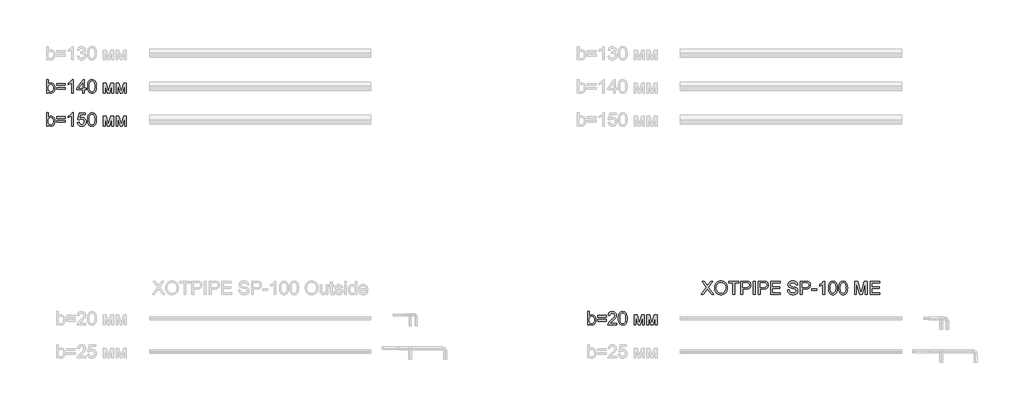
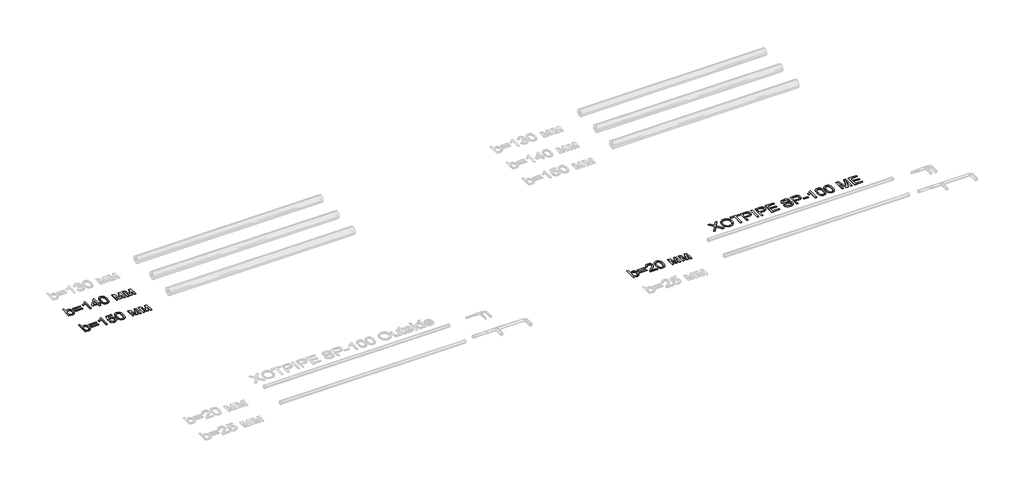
# One storey, part 56 of 86: 4 proxies.
"""IFC4 building model written with IfcOpenShell, lengths in millimetres."""

from ifc_helpers import new_model, si_unit, origin, origin_with_axes, place, context, project, spatial, polyline, outline, extrude, element, save

model = new_model("IFC4")

# Units and contexts
model_context = context("Model", 3, world=origin())
ifc_project = project(units=[si_unit("LENGTHUNIT", "METRE", prefix="MILLI")], contexts=[model_context])

# Site, building, storey
site = spatial("IfcSite", under=ifc_project)
building = spatial("IfcBuilding", under=site)
storey = spatial("IfcBuildingStorey", under=building, Name="Уровень 1", Elevation=0.0)

# Proxies
placement = place(None, origin())
element("IfcBuildingElementProxy", 1, Name="Текст модели 1", ObjectType="Текст модели 1", at=placement, inside=storey, context=model_context, shape_type="SweptSolid", body=[
    extrude(outline(polyline([(22698.159624, 39669.2937088), (22622.8173914, 39669.2937088), (22622.8173914, 40272.0315697), (22698.159624, 40272.0315697), (22698.159624, 40048.5064694), (22722.9364764, 40080.3742473), (22750.9139022, 40103.1369457), (22782.0919012, 40116.7945648), (22816.4704737, 40121.3471045), (22855.2820242, 40117.2452202), (22891.9598591, 40104.9395675), (22924.4070511, 40085.2026984), (22950.5266727, 40058.8071653), (22970.9993058, 40026.0104854), (22986.5055319, 39987.0701762), (22996.2727988, 39943.6049185), (22999.5285545, 39897.233393), (22996.1578357, 39843.7249568), (22986.0456794, 39796.6544555), (22969.1920855, 39756.0218892), (22945.597054, 39721.8272577), (22917.2747389, 39694.7235517), (22886.2392941, 39675.3637617), (22852.4907195, 39663.7478877), (22816.0290153, 39659.8759297), (22780.5192057, 39664.8699278), (22749.037704, 39679.8519221), (22721.5845101, 39704.8219125), (22698.159624, 39739.7798991), (22698.159624, 39669.2937088)]), holes=[polyline([(22698.159624, 39893.7017259), (22703.309972, 39830.8674811), (22709.7479069, 39807.065516), (22718.7610158, 39788.3403224), (22737.0171598, 39765.0993774), (22758.2347539, 39748.4987024), (22782.413798, 39738.5382973), (22809.5542922, 39735.2181623), (22832.0870644, 39737.6645776), (22853.037944, 39745.0038234), (22872.4069311, 39757.2358997), (22890.1940255, 39774.3608066), (22905.0656552, 39796.3325588), (22915.6882478, 39823.105171), (22922.0618034, 39854.6786432), (22924.1863219, 39891.0529755), (22922.1491753, 39928.1170865), (22916.0377357, 39959.9940614), (22905.8520029, 39986.6839001), (22891.5919771, 40008.1866028), (22874.4440776, 40024.7320955), (22855.5947239, 40036.5503046), (22835.0439159, 40043.64123), (22812.7916537, 40046.0048719), (22790.2588815, 40043.5584566), (22769.3080019, 40036.2192108), (22749.9390149, 40023.9871344), (22732.1519204, 40006.8622276), (22717.2802907, 39985.1112046), (22706.6576981, 39959.00078), (22700.2841426, 39928.5309538), (22698.159624, 39893.7017259)])]), origin_with_axes(), (0.0, 0.0, 1.0), 20.0),
    extrude(outline(polyline([(23470.4175083, 40017.7515346), (23074.8707871, 40017.7515346), (23074.8707871, 40093.0937672), (23470.4175083, 40093.0937672), (23470.4175083, 40017.7515346)])), origin_with_axes(), (0.0, 0.0, 1.0), 20.0),
    extrude(outline(polyline([(23470.4175083, 39838.8137322), (23074.8707871, 39838.8137322), (23074.8707871, 39914.1559648), (23470.4175083, 39914.1559648), (23470.4175083, 39838.8137322)])), origin_with_axes(), (0.0, 0.0, 1.0), 20.0),
    extrude(outline(polyline([(23837.7108923, 39669.2937088), (23762.3686597, 39669.2937088), (23762.3686597, 40139.0054402), (23730.9147491, 40113.5664003), (23690.9995526, 40088.1641485), (23649.0977934, 40065.9624701), (23611.6841945, 40050.1251502), (23611.6841945, 40121.3471045), (23670.8580134, 40153.5367791), (23722.1223694, 40191.8332947), (23762.5342066, 40232.5578316), (23789.1504689, 40272.0315697), (23837.7108923, 40272.0315697), (23837.7108923, 39669.2937088)])), origin_with_axes(), (0.0, 0.0, 1.0), 20.0),
    extrude(outline(polyline([(24261.5109507, 39669.2937088), (24261.5109507, 39810.5603949), (23988.3953575, 39810.5603949), (23988.3953575, 39885.9026276), (24280.3465089, 40262.6137906), (24336.8531834, 40262.6137906), (24336.8531834, 39885.9026276), (24412.195416, 39885.9026276), (24412.195416, 39810.5603949), (24336.8531834, 39810.5603949), (24336.8531834, 39669.2937088), (24261.5109507, 39669.2937088)]), holes=[polyline([(24261.5109507, 39885.9026276), (24261.5109507, 40118.6983541), (24081.1016203, 39885.9026276), (24261.5109507, 39885.9026276)])]), origin_with_axes(), (0.0, 0.0, 1.0), 20.0),
    extrude(outline(polyline([(24478.1198695, 39965.8065969), (24483.6564935, 40062.2836501), (24490.5772736, 40103.1967265), (24500.2663656, 40139.2261694), (24512.682383, 40170.6662845), (24527.7839389, 40197.8113772), (24545.5710333, 40220.6614476), (24566.0436664, 40239.2164957), (24589.2708158, 40253.5730906), (24615.3214596, 40263.8278012), (24644.1955977, 40269.9806276), (24675.8932301, 40272.0315697), (24722.3199379, 40267.1755274), (24763.8906034, 40252.6074004), (24798.6554519, 40228.8974058), (24824.664709, 40196.6157607), (24844.3096075, 40156.0383766), (24859.9813805, 40107.4411651), (24870.2452882, 40045.7289604), (24873.6665907, 39965.8065969), (24868.185149, 39869.8813667), (24861.3333468, 39829.106246), (24851.7408238, 39793.1227884), (24839.4213755, 39761.6688778), (24824.3887975, 39734.4823983), (24806.6430897, 39711.56335), (24786.1842523, 39692.9117329), (24762.9295116, 39678.458569), (24736.7960944, 39668.1348805), (24707.7840006, 39661.9406674), (24675.8932301, 39659.8759297), (24634.3961411, 39663.4627792), (24597.6079415, 39674.2233275), (24565.5286316, 39692.1575748), (24538.1582111, 39717.265521), (24511.8914367, 39762.6529621), (24493.1294549, 39819.2056218), (24481.8722659, 39886.9235001), (24478.1198695, 39965.8065969)]), holes=[polyline([(24553.4621021, 39965.9537497), (24555.6693941, 39900.456959), (24562.29127, 39847.440565), (24573.3277299, 39806.9045676), (24588.7787737, 39778.848967), (24607.467179, 39759.7604899), (24628.2157235, 39746.1258635), (24651.0244072, 39737.9450876), (24675.8932301, 39735.2181623), (24700.762053, 39737.9542847), (24723.5707367, 39746.1626517), (24744.3192812, 39759.8432634), (24763.0076866, 39778.9961198), (24778.4587304, 39807.0977057), (24789.4951902, 39847.624506), (24796.1170661, 39900.5765206), (24798.3243581, 39965.9537497), (24796.1906425, 40029.7168965), (24789.7894958, 40081.79979), (24779.120918, 40122.2024301), (24764.184909, 40150.9248169), (24745.8092033, 40170.9467945), (24724.8215355, 40185.248207), (24701.2219055, 40193.8290546), (24675.0103133, 40196.6893371), (24650.2702492, 40194.1693454), (24627.8478415, 40186.6093704), (24607.7430905, 40174.0094121), (24589.955996, 40156.3694704), (24573.9899175, 40125.0995008), (24562.5855756, 40082.9402242), (24555.7429705, 40029.8916405), (24553.4621021, 39965.9537497)])]), origin_with_axes(), (0.0, 0.0, 1.0), 20.0),
    extrude(outline(polyline([(25193.8710793, 40111.9293254), (25323.5126944, 40111.9293254), (25423.4294443, 39757.5853876), (25531.1452925, 40111.9293254), (25655.3422541, 40111.9293254), (25655.3422541, 39669.2937088), (25580.0000215, 39669.2937088), (25580.0000215, 40025.6977857), (25471.6955621, 39669.2937088), (25372.8088818, 39669.2937088), (25269.2133119, 40042.7675103), (25269.2133119, 39669.2937088), (25193.8710793, 39669.2937088), (25193.8710793, 40111.9293254)])), origin_with_axes(), (0.0, 0.0, 1.0), 20.0),
    extrude(outline(polyline([(25768.355603, 40111.9293254), (25897.9972181, 40111.9293254), (25997.913968, 39757.5853876), (26105.6298162, 40111.9293254), (26229.8267777, 40111.9293254), (26229.8267777, 39669.2937088), (26154.4845451, 39669.2937088), (26154.4845451, 40025.6977857), (26046.1800857, 39669.2937088), (25947.2934054, 39669.2937088), (25843.6978356, 40042.7675103), (25843.6978356, 39669.2937088), (25768.355603, 39669.2937088), (25768.355603, 40111.9293254)])), origin_with_axes(), (0.0, 0.0, 1.0), 20.0),
])
element("IfcBuildingElementProxy", 2, Name="Текст модели 1", ObjectType="Текст модели 1", at=placement, inside=storey, context=model_context, shape_type="SweptSolid", body=[
    extrude(outline(polyline([(22698.159624, 38169.2937088), (22622.8173914, 38169.2937088), (22622.8173914, 38772.0315697), (22698.159624, 38772.0315697), (22698.159624, 38548.5064694), (22722.9364764, 38580.3742473), (22750.9139022, 38603.1369457), (22782.0919012, 38616.7945648), (22816.4704737, 38621.3471045), (22855.2820242, 38617.2452202), (22891.9598591, 38604.9395675), (22924.4070511, 38585.2026984), (22950.5266727, 38558.8071653), (22970.9993058, 38526.0104854), (22986.5055319, 38487.0701762), (22996.2727988, 38443.6049185), (22999.5285545, 38397.233393), (22996.1578357, 38343.7249568), (22986.0456794, 38296.6544555), (22969.1920855, 38256.0218892), (22945.597054, 38221.8272577), (22917.2747389, 38194.7235517), (22886.2392941, 38175.3637617), (22852.4907195, 38163.7478877), (22816.0290153, 38159.8759297), (22780.5192057, 38164.8699278), (22749.037704, 38179.8519221), (22721.5845101, 38204.8219125), (22698.159624, 38239.7798991), (22698.159624, 38169.2937088)]), holes=[polyline([(22698.159624, 38393.7017259), (22703.309972, 38330.8674811), (22709.7479069, 38307.065516), (22718.7610158, 38288.3403224), (22737.0171598, 38265.0993774), (22758.2347539, 38248.4987024), (22782.413798, 38238.5382973), (22809.5542922, 38235.2181623), (22832.0870644, 38237.6645776), (22853.037944, 38245.0038234), (22872.4069311, 38257.2358997), (22890.1940255, 38274.3608066), (22905.0656552, 38296.3325588), (22915.6882478, 38323.105171), (22922.0618034, 38354.6786432), (22924.1863219, 38391.0529755), (22922.1491753, 38428.1170865), (22916.0377357, 38459.9940614), (22905.8520029, 38486.6839001), (22891.5919771, 38508.1866028), (22874.4440776, 38524.7320955), (22855.5947239, 38536.5503046), (22835.0439159, 38543.64123), (22812.7916537, 38546.0048719), (22790.2588815, 38543.5584566), (22769.3080019, 38536.2192108), (22749.9390149, 38523.9871344), (22732.1519204, 38506.8622276), (22717.2802907, 38485.1112046), (22706.6576981, 38459.00078), (22700.2841426, 38428.5309538), (22698.159624, 38393.7017259)])]), origin_with_axes(), (0.0, 0.0, 1.0), 20.0),
    extrude(outline(polyline([(23470.4175083, 38517.7515346), (23074.8707871, 38517.7515346), (23074.8707871, 38593.0937672), (23470.4175083, 38593.0937672), (23470.4175083, 38517.7515346)])), origin_with_axes(), (0.0, 0.0, 1.0), 20.0),
    extrude(outline(polyline([(23470.4175083, 38338.8137322), (23074.8707871, 38338.8137322), (23074.8707871, 38414.1559648), (23470.4175083, 38414.1559648), (23470.4175083, 38338.8137322)])), origin_with_axes(), (0.0, 0.0, 1.0), 20.0),
    extrude(outline(polyline([(23837.7108923, 38169.2937088), (23762.3686597, 38169.2937088), (23762.3686597, 38639.0054402), (23730.9147491, 38613.5664003), (23690.9995526, 38588.1641485), (23649.0977934, 38565.9624701), (23611.6841945, 38550.1251502), (23611.6841945, 38621.3471045), (23670.8580134, 38653.5367791), (23722.1223694, 38691.8332947), (23762.5342066, 38732.5578316), (23789.1504689, 38772.0315697), (23837.7108923, 38772.0315697), (23837.7108923, 38169.2937088)])), origin_with_axes(), (0.0, 0.0, 1.0), 20.0),
    extrude(outline(polyline([(24016.6486948, 38329.3959531), (24091.9909274, 38338.8137322), (24097.6195219, 38314.5933013), (24105.8232904, 38293.5826409), (24116.6022328, 38275.7817508), (24129.9563493, 38261.1906312), (24145.8580485, 38249.8276761), (24164.2797394, 38241.7112795), (24185.221422, 38236.8414416), (24208.6830962, 38235.2181623), (24237.3778919, 38237.4760381), (24262.6881731, 38244.2496653), (24284.61394, 38255.539044), (24303.1551926, 38271.3441743), (24317.8980636, 38290.8833067), (24328.4286857, 38313.3746922), (24334.7470589, 38338.8183307), (24336.8531834, 38367.2142222), (24334.8804162, 38394.0512138), (24328.9621146, 38417.9083611), (24319.0982786, 38438.7856644), (24305.2889082, 38456.6831234), (24287.4880181, 38471.0397183), (24265.6496232, 38481.2944289), (24239.7737234, 38487.4472553), (24209.8603186, 38489.4981974), (24173.3112424, 38486.2240476), (24143.7151359, 38476.4015984), (24120.0787177, 38461.3552248), (24101.4087064, 38442.409302), (24026.0664738, 38451.8270811), (24091.9909274, 38762.6137906), (24383.9420787, 38762.6137906), (24383.9420787, 38687.271558), (24152.9121858, 38687.271558), (24120.685723, 38521.2832018), (24147.2743942, 38540.3394891), (24174.5068589, 38553.951123), (24202.3831171, 38562.1181032), (24230.9031687, 38564.84043), (24267.5947992, 38561.4651127), (24301.2973885, 38551.3391608), (24332.0109366, 38534.4625743), (24359.7354435, 38510.8353531), (24382.6866814, 38481.9014342), (24399.0804228, 38449.1047543), (24408.9166677, 38412.4453135), (24412.195416, 38371.9231117), (24409.243163, 38332.8908321), (24400.3864039, 38296.5808791), (24385.6251389, 38262.993253), (24364.9593678, 38232.1279536), (24333.65261, 38200.5176931), (24297.1219279, 38177.9389357), (24255.3673214, 38164.3916812), (24208.3887906, 38159.8759297), (24169.5082623, 38162.777599), (24134.3893273, 38171.4826067), (24103.0319858, 38185.9909529), (24075.4362376, 38206.3026375), (24052.4758026, 38231.4059852), (24035.0244004, 38260.2893203), (24023.0820311, 38292.952643), (24016.6486948, 38329.3959531)])), origin_with_axes(), (0.0, 0.0, 1.0), 20.0),
    extrude(outline(polyline([(24478.1198695, 38465.8065969), (24483.6564935, 38562.2836501), (24490.5772736, 38603.1967265), (24500.2663656, 38639.2261694), (24512.682383, 38670.6662845), (24527.7839389, 38697.8113772), (24545.5710333, 38720.6614476), (24566.0436664, 38739.2164957), (24589.2708158, 38753.5730906), (24615.3214596, 38763.8278012), (24644.1955977, 38769.9806276), (24675.8932301, 38772.0315697), (24722.3199379, 38767.1755274), (24763.8906034, 38752.6074004), (24798.6554519, 38728.8974058), (24824.664709, 38696.6157607), (24844.3096075, 38656.0383766), (24859.9813805, 38607.4411651), (24870.2452882, 38545.7289604), (24873.6665907, 38465.8065969), (24868.185149, 38369.8813667), (24861.3333468, 38329.106246), (24851.7408238, 38293.1227884), (24839.4213755, 38261.6688778), (24824.3887975, 38234.4823983), (24806.6430897, 38211.56335), (24786.1842523, 38192.9117329), (24762.9295116, 38178.458569), (24736.7960944, 38168.1348805), (24707.7840006, 38161.9406674), (24675.8932301, 38159.8759297), (24634.3961411, 38163.4627792), (24597.6079415, 38174.2233275), (24565.5286316, 38192.1575748), (24538.1582111, 38217.265521), (24511.8914367, 38262.6529621), (24493.1294549, 38319.2056218), (24481.8722659, 38386.9235001), (24478.1198695, 38465.8065969)]), holes=[polyline([(24553.4621021, 38465.9537497), (24555.6693941, 38400.456959), (24562.29127, 38347.440565), (24573.3277299, 38306.9045676), (24588.7787737, 38278.848967), (24607.467179, 38259.7604899), (24628.2157235, 38246.1258635), (24651.0244072, 38237.9450876), (24675.8932301, 38235.2181623), (24700.762053, 38237.9542847), (24723.5707367, 38246.1626517), (24744.3192812, 38259.8432634), (24763.0076866, 38278.9961198), (24778.4587304, 38307.0977057), (24789.4951902, 38347.624506), (24796.1170661, 38400.5765206), (24798.3243581, 38465.9537497), (24796.1906425, 38529.7168965), (24789.7894958, 38581.79979), (24779.120918, 38622.2024301), (24764.184909, 38650.9248169), (24745.8092033, 38670.9467945), (24724.8215355, 38685.248207), (24701.2219055, 38693.8290546), (24675.0103133, 38696.6893371), (24650.2702492, 38694.1693454), (24627.8478415, 38686.6093704), (24607.7430905, 38674.0094121), (24589.955996, 38656.3694704), (24573.9899175, 38625.0995008), (24562.5855756, 38582.9402242), (24555.7429705, 38529.8916405), (24553.4621021, 38465.9537497)])]), origin_with_axes(), (0.0, 0.0, 1.0), 20.0),
    extrude(outline(polyline([(25193.8710793, 38611.9293254), (25323.5126944, 38611.9293254), (25423.4294443, 38257.5853876), (25531.1452925, 38611.9293254), (25655.3422541, 38611.9293254), (25655.3422541, 38169.2937088), (25580.0000215, 38169.2937088), (25580.0000215, 38525.6977857), (25471.6955621, 38169.2937088), (25372.8088818, 38169.2937088), (25269.2133119, 38542.7675103), (25269.2133119, 38169.2937088), (25193.8710793, 38169.2937088), (25193.8710793, 38611.9293254)])), origin_with_axes(), (0.0, 0.0, 1.0), 20.0),
    extrude(outline(polyline([(25768.355603, 38611.9293254), (25897.9972181, 38611.9293254), (25997.913968, 38257.5853876), (26105.6298162, 38611.9293254), (26229.8267777, 38611.9293254), (26229.8267777, 38169.2937088), (26154.4845451, 38169.2937088), (26154.4845451, 38525.6977857), (26046.1800857, 38169.2937088), (25947.2934054, 38169.2937088), (25843.6978356, 38542.7675103), (25843.6978356, 38169.2937088), (25768.355603, 38169.2937088), (25768.355603, 38611.9293254)])), origin_with_axes(), (0.0, 0.0, 1.0), 20.0),
])
element("IfcBuildingElementProxy", 3, Name="Текст модели 1", ObjectType="Текст модели 1", at=placement, inside=storey, context=model_context, shape_type="SweptSolid", body=[
    extrude(outline(polyline([(47159.6307988, 29169.2937088), (47084.2885662, 29169.2937088), (47084.2885662, 29772.0315697), (47159.6307988, 29772.0315697), (47159.6307988, 29548.5064694), (47184.4076512, 29580.3742473), (47212.3850769, 29603.1369457), (47243.563076, 29616.7945648), (47277.9416484, 29621.3471045), (47316.7531989, 29617.2452202), (47353.4310339, 29604.9395675), (47385.8782258, 29585.2026984), (47411.9978475, 29558.8071653), (47432.4704805, 29526.0104854), (47447.9767066, 29487.0701762), (47457.7439736, 29443.6049185), (47460.9997292, 29397.233393), (47457.6290105, 29343.7249568), (47447.5168541, 29296.6544555), (47430.6632602, 29256.0218892), (47407.0682288, 29221.8272577), (47378.7459136, 29194.7235517), (47347.7104688, 29175.3637617), (47313.9618943, 29163.7478877), (47277.50019, 29159.8759297), (47241.9903805, 29164.8699278), (47210.5088787, 29179.8519221), (47183.0556848, 29204.8219125), (47159.6307988, 29239.7798991), (47159.6307988, 29169.2937088)]), holes=[polyline([(47159.6307988, 29393.7017259), (47164.7811467, 29330.8674811), (47171.2190816, 29307.065516), (47180.2321905, 29288.3403224), (47198.4883345, 29265.0993774), (47219.7059286, 29248.4987024), (47243.8849727, 29238.5382973), (47271.0254669, 29235.2181623), (47293.5582391, 29237.6645776), (47314.5091188, 29245.0038234), (47333.8781058, 29257.2358997), (47351.6652003, 29274.3608066), (47366.5368299, 29296.3325588), (47377.1594225, 29323.105171), (47383.5329781, 29354.6786432), (47385.6574966, 29391.0529755), (47383.6203501, 29428.1170865), (47377.5089104, 29459.9940614), (47367.3231777, 29486.6839001), (47353.0631519, 29508.1866028), (47335.9152524, 29524.7320955), (47317.0658986, 29536.5503046), (47296.5150907, 29543.64123), (47274.2628285, 29546.0048719), (47251.7300563, 29543.5584566), (47230.7791767, 29536.2192108), (47211.4101896, 29523.9871344), (47193.6230951, 29506.8622276), (47178.7514655, 29485.1112046), (47168.1288729, 29459.00078), (47161.7553173, 29428.5309538), (47159.6307988, 29393.7017259)])]), origin_with_axes(), (0.0, 0.0, 1.0), 20.0),
    extrude(outline(polyline([(47931.8886831, 29517.7515346), (47536.3419619, 29517.7515346), (47536.3419619, 29593.0937672), (47931.8886831, 29593.0937672), (47931.8886831, 29517.7515346)])), origin_with_axes(), (0.0, 0.0, 1.0), 20.0),
    extrude(outline(polyline([(47931.8886831, 29338.8137322), (47536.3419619, 29338.8137322), (47536.3419619, 29414.1559648), (47931.8886831, 29414.1559648), (47931.8886831, 29338.8137322)])), origin_with_axes(), (0.0, 0.0, 1.0), 20.0),
    extrude(outline(polyline([(48402.7776369, 29244.6359414), (48402.7776369, 29169.2937088), (48007.2309157, 29169.2937088), (48008.8863847, 29195.8180007), (48015.3243196, 29221.2386465), (48033.9023603, 29261.8344247), (48061.0888398, 29301.2161923), (48100.4154251, 29342.4373698), (48155.4137833, 29388.5513779), (48236.7157043, 29460.7666136), (48285.4968568, 29514.0727147), (48299.724693, 29535.8513288), (48309.8874331, 29557.3356373), (48315.9850772, 29578.5256402), (48318.0176252, 29599.4213376), (48316.1000403, 29619.0800317), (48310.3472856, 29637.1476362), (48300.7593611, 29653.624151), (48287.3362668, 29668.5095763), (48270.8229638, 29680.8382216), (48251.964413, 29689.6443969), (48230.7606145, 29694.928102), (48207.2115683, 29696.6893371), (48182.4025262, 29694.9694888), (48160.2146434, 29689.8099438), (48140.6479198, 29681.2107021), (48123.7023554, 29669.1717638), (48109.9941525, 29654.0977991), (48100.1395136, 29636.3934781), (48094.1384385, 29616.0588008), (48091.9909274, 29593.0937672), (48016.6486948, 29602.5115463), (48023.1280164, 29641.4058703), (48034.9140358, 29675.3889696), (48052.006753, 29704.4608442), (48074.406168, 29728.6214943), (48101.597246, 29747.6134023), (48133.0649521, 29761.1790508), (48168.8092865, 29769.31844), (48208.830249, 29772.0315697), (48249.2098965, 29769.0149373), (48285.1473689, 29759.9650403), (48316.6426662, 29744.8818785), (48343.6957885, 29723.7654519), (48365.4238188, 29698.1792592), (48380.9438405, 29669.6867986), (48390.2558535, 29638.2880704), (48393.3598578, 29603.9830743), (48390.0121317, 29567.9490329), (48379.9689532, 29532.5403908), (48362.1450705, 29496.5247435), (48335.4552318, 29458.6696862), (48292.909679, 29413.4753831), (48227.5186544, 29355.4419984), (48140.8456563, 29282.9692453), (48106.85336, 29244.6359414), (48402.7776369, 29244.6359414)])), origin_with_axes(), (0.0, 0.0, 1.0), 20.0),
    extrude(outline(polyline([(48478.1198695, 29465.8065969), (48483.6564935, 29562.2836501), (48490.5772736, 29603.1967265), (48500.2663656, 29639.2261694), (48512.682383, 29670.6662845), (48527.7839389, 29697.8113772), (48545.5710333, 29720.6614476), (48566.0436664, 29739.2164957), (48589.2708158, 29753.5730906), (48615.3214596, 29763.8278012), (48644.1955977, 29769.9806276), (48675.8932301, 29772.0315697), (48722.3199379, 29767.1755274), (48763.8906034, 29752.6074004), (48798.6554519, 29728.8974058), (48824.664709, 29696.6157607), (48844.3096075, 29656.0383766), (48859.9813805, 29607.4411651), (48870.2452882, 29545.7289604), (48873.6665907, 29465.8065969), (48868.185149, 29369.8813667), (48861.3333468, 29329.106246), (48851.7408238, 29293.1227884), (48839.4213755, 29261.6688778), (48824.3887975, 29234.4823983), (48806.6430897, 29211.56335), (48786.1842523, 29192.9117329), (48762.9295116, 29178.458569), (48736.7960944, 29168.1348805), (48707.7840006, 29161.9406674), (48675.8932301, 29159.8759297), (48634.3961411, 29163.4627792), (48597.6079415, 29174.2233275), (48565.5286316, 29192.1575748), (48538.1582111, 29217.265521), (48511.8914367, 29262.6529621), (48493.1294549, 29319.2056218), (48481.8722659, 29386.9235001), (48478.1198695, 29465.8065969)]), holes=[polyline([(48553.4621021, 29465.9537497), (48555.6693941, 29400.456959), (48562.29127, 29347.440565), (48573.3277299, 29306.9045676), (48588.7787737, 29278.848967), (48607.467179, 29259.7604899), (48628.2157235, 29246.1258635), (48651.0244072, 29237.9450876), (48675.8932301, 29235.2181623), (48700.762053, 29237.9542847), (48723.5707367, 29246.1626517), (48744.3192812, 29259.8432634), (48763.0076866, 29278.9961198), (48778.4587304, 29307.0977057), (48789.4951902, 29347.624506), (48796.1170661, 29400.5765206), (48798.3243581, 29465.9537497), (48796.1906425, 29529.7168965), (48789.7894958, 29581.79979), (48779.120918, 29622.2024301), (48764.184909, 29650.9248169), (48745.8092033, 29670.9467945), (48724.8215355, 29685.248207), (48701.2219055, 29693.8290546), (48675.0103133, 29696.6893371), (48650.2702492, 29694.1693454), (48627.8478415, 29686.6093704), (48607.7430905, 29674.0094121), (48589.955996, 29656.3694704), (48573.9899175, 29625.0995008), (48562.5855756, 29582.9402242), (48555.7429705, 29529.8916405), (48553.4621021, 29465.9537497)])]), origin_with_axes(), (0.0, 0.0, 1.0), 20.0),
    extrude(outline(polyline([(49193.8710793, 29611.9293254), (49323.5126944, 29611.9293254), (49423.4294443, 29257.5853876), (49531.1452925, 29611.9293254), (49655.3422541, 29611.9293254), (49655.3422541, 29169.2937088), (49580.0000215, 29169.2937088), (49580.0000215, 29525.6977857), (49471.6955621, 29169.2937088), (49372.8088818, 29169.2937088), (49269.2133119, 29542.7675103), (49269.2133119, 29169.2937088), (49193.8710793, 29169.2937088), (49193.8710793, 29611.9293254)])), origin_with_axes(), (0.0, 0.0, 1.0), 20.0),
    extrude(outline(polyline([(49768.355603, 29611.9293254), (49897.9972181, 29611.9293254), (49997.913968, 29257.5853876), (50105.6298162, 29611.9293254), (50229.8267777, 29611.9293254), (50229.8267777, 29169.2937088), (50154.4845451, 29169.2937088), (50154.4845451, 29525.6977857), (50046.1800857, 29169.2937088), (49947.2934054, 29169.2937088), (49843.6978356, 29542.7675103), (49843.6978356, 29169.2937088), (49768.355603, 29169.2937088), (49768.355603, 29611.9293254)])), origin_with_axes(), (0.0, 0.0, 1.0), 20.0),
])
element("IfcBuildingElementProxy", 4, Name="Текст модели 1", ObjectType="Текст модели 1", at=placement, inside=storey, context=model_context, shape_type="SweptSolid", body=[
    extrude(outline(polyline([(52227.2706702, 30543.2937088), (52459.6249384, 30871.7387541), (52264.9417865, 31146.0315697), (52355.2936045, 31146.0315697), (52464.9224391, 30991.6682845), (52491.078849, 30952.5624284), (52501.8577914, 30931.4827901), (52545.1207141, 30992.6983541), (52653.5723262, 31146.0315697), (52745.2485194, 31146.0315697), (52550.5653676, 30870.8558373), (52782.9196357, 30543.2937088), (52692.5678177, 30543.2937088), (52537.7630741, 30761.6684611), (52505.5366114, 30806.9915229), (52470.072787, 30757.2538772), (52318.9468634, 30543.2937088), (52227.2706702, 30543.2937088)])), origin_with_axes(), (0.0, 0.0, 1.0), 20.0),
    extrude(outline(polyline([(52830.0085311, 30836.7163882), (52835.0301203, 30907.4141106), (52850.0948881, 30970.000035), (52875.2028342, 31024.4741614), (52891.5229992, 31048.6693004), (52910.3539589, 31070.8364899), (52953.4421375, 31107.8546156), (53002.3612459, 31134.2961341), (53057.1112838, 31150.1610451), (53117.6922513, 31155.4493488), (53158.2420443, 31152.9661453), (53196.7500921, 31145.5165349), (53233.2163949, 31133.1005176), (53267.6409526, 31115.7180933), (53299.058075, 31093.8934939), (53326.5020718, 31068.1509513), (53349.9729431, 31038.4904655), (53369.4706888, 31004.9120363), (53384.7929739, 30968.1790191), (53395.7374633, 30929.0547689), (53402.3041569, 30887.5392858), (53404.4930548, 30843.6325697), (53402.1891938, 30799.1464394), (53395.2776108, 30757.0699362), (53383.7583058, 30717.4030601), (53367.6312789, 30680.145811), (53347.2782075, 30646.2822733), (53323.0807693, 30616.7965314), (53295.0389642, 30591.6885853), (53263.1527922, 30570.9584348), (53228.6776508, 30554.7348388), (53192.8689371, 30543.146556), (53155.7266511, 30536.1935863), (53117.2507929, 30533.8759297), (53075.9928272, 30536.4373081), (53036.9789416, 30544.1214433), (53000.2091362, 30556.9283352), (52965.6834109, 30574.857984), (52934.3030767, 30597.2160122), (52906.9694445, 30623.3080427), (52883.6825142, 30653.1340755), (52864.4422859, 30686.6941105), (52849.3775182, 30722.64078), (52838.6169698, 30759.6267161), (52832.1606408, 30797.6519188), (52830.0085311, 30836.7163882)]), holes=[polyline([(52905.3507637, 30835.9806242), (52909.1169557, 30786.0314463), (52920.4155314, 30741.6924688), (52939.2464911, 30702.9636918), (52965.6098345, 30669.8451151), (52997.6569548, 30643.3208233), (53033.5392449, 30624.3749005), (53073.2567049, 30613.0073469), (53116.8093346, 30609.2181623), (53161.1069253, 30613.0441351), (53201.2934347, 30624.5220533), (53237.3688629, 30643.6519171), (53269.3332098, 30670.4337263), (53295.5034152, 30704.2512787), (53314.1964191, 30744.488372), (53325.4122214, 30791.145006), (53329.1508222, 30844.2211809), (53327.5505355, 30878.7009209), (53322.7496755, 30910.9181866), (53314.7482421, 30940.872978), (53303.5462353, 30968.5652952), (53289.2678154, 30993.6318547), (53272.0371424, 31015.7093729), (53251.8542165, 31034.7978499), (53228.7190375, 31050.8972857), (53203.3489754, 31063.6765866), (53176.4614001, 31072.8046586), (53148.0563115, 31078.2815018), (53118.1337097, 31080.1071162), (53076.0939947, 31076.5892446), (53037.0893062, 31066.0356298), (53001.1196441, 31048.446272), (52968.1850085, 31023.8211709), (52940.6950264, 30990.9739073), (52921.0593249, 30948.7180616), (52909.277904, 30897.0536339), (52905.3507637, 30835.9806242)])]), origin_with_axes(), (0.0, 0.0, 1.0), 20.0),
    extrude(outline(polyline([(53658.7730899, 30543.2937088), (53658.7730899, 31070.6893371), (53460.9997292, 31070.6893371), (53460.9997292, 31146.0315697), (53931.8886831, 31146.0315697), (53931.8886831, 31070.6893371), (53734.1153225, 31070.6893371), (53734.1153225, 30543.2937088), (53658.7730899, 30543.2937088)])), origin_with_axes(), (0.0, 0.0, 1.0), 20.0),
    extrude(outline(polyline([(54016.6486948, 30543.2937088), (54016.6486948, 31146.0315697), (54240.0266422, 31146.0315697), (54292.0451563, 31144.5968299), (54330.0841546, 31140.2926106), (54370.2384744, 31129.5688504), (54403.2926717, 31112.1128497), (54429.908934, 31087.1336623), (54450.7494491, 31053.8403417), (54464.2139301, 31014.5689387), (54468.7020904, 30971.655504), (54465.6716625, 30934.6557723), (54456.5803787, 30900.6174907), (54441.428239, 30869.5406592), (54420.2152435, 30841.4252777), (54391.092785, 30818.1199533), (54352.2122567, 30801.473293), (54303.5736584, 30791.4852968), (54245.1769902, 30788.1559648), (54091.9909274, 30788.1559648), (54091.9909274, 30543.2937088), (54016.6486948, 30543.2937088)]), holes=[polyline([(54091.9909274, 30863.4981974), (54249.5915741, 30863.4981974), (54285.8279506, 30865.2272428), (54316.3989444, 30870.4143789), (54341.3045555, 30879.0596058), (54360.5447838, 30891.1629234), (54374.9013787, 30906.4024351), (54385.1560893, 30924.456244), (54391.3089157, 30945.3243502), (54393.3598578, 30969.0067536), (54388.5222096, 31002.8518972), (54374.0092649, 31031.39954), (54351.6236455, 31052.8838485), (54323.1679731, 31065.5389892), (54294.1052955, 31069.4017501), (54247.8257405, 31070.6893371), (54091.9909274, 31070.6893371), (54091.9909274, 30863.4981974)])]), origin_with_axes(), (0.0, 0.0, 1.0), 20.0),
    extrude(outline(polyline([(54581.7154393, 30543.2937088), (54581.7154393, 31146.0315697), (54657.057672, 31146.0315697), (54657.057672, 30543.2937088), (54581.7154393, 30543.2937088)])), origin_with_axes(), (0.0, 0.0, 1.0), 20.0),
    extrude(outline(polyline([(54807.7421372, 30543.2937088), (54807.7421372, 31146.0315697), (55031.1200847, 31146.0315697), (55083.1385988, 31144.5968299), (55121.1775971, 31140.2926106), (55161.3319169, 31129.5688504), (55194.3861141, 31112.1128497), (55221.0023765, 31087.1336623), (55241.8428915, 31053.8403417), (55255.3073725, 31014.5689387), (55259.7955329, 30971.655504), (55256.7651049, 30934.6557723), (55247.6738211, 30900.6174907), (55232.5216814, 30869.5406592), (55211.3086859, 30841.4252777), (55182.1862275, 30818.1199533), (55143.3056991, 30801.473293), (55094.6671008, 30791.4852968), (55036.2704326, 30788.1559648), (54883.0843698, 30788.1559648), (54883.0843698, 30543.2937088), (54807.7421372, 30543.2937088)]), holes=[polyline([(54883.0843698, 30863.4981974), (55040.6850165, 30863.4981974), (55076.9213931, 30865.2272428), (55107.4923869, 30870.4143789), (55132.3979979, 30879.0596058), (55151.6382263, 30891.1629234), (55165.9948211, 30906.4024351), (55176.2495318, 30924.456244), (55182.4023581, 30945.3243502), (55184.4533002, 30969.0067536), (55179.615652, 31002.8518972), (55165.1027073, 31031.39954), (55142.7170879, 31052.8838485), (55114.2614156, 31065.5389892), (55085.1987379, 31069.4017501), (55038.919183, 31070.6893371), (54883.0843698, 31070.6893371), (54883.0843698, 30863.4981974)])]), origin_with_axes(), (0.0, 0.0, 1.0), 20.0),
    extrude(outline(polyline([(55363.3911027, 30543.2937088), (55363.3911027, 31146.0315697), (55796.6089402, 31146.0315697), (55796.6089402, 31070.6893371), (55438.7333353, 31070.6893371), (55438.7333353, 30891.7515346), (55777.7733821, 30891.7515346), (55777.7733821, 30816.409302), (55438.7333353, 30816.409302), (55438.7333353, 30618.6359414), (55806.0267193, 30618.6359414), (55806.0267193, 30543.2937088), (55363.3911027, 30543.2937088)])), origin_with_axes(), (0.0, 0.0, 1.0), 20.0),
    extrude(outline(polyline([(56126.2312079, 30750.4848485), (56201.5734405, 30750.4848485), (56210.2186674, 30708.6750597), (56225.8536522, 30675.0690395), (56250.2442285, 30648.3975948), (56285.1562298, 30627.3915329), (56327.8305413, 30613.761505), (56375.5080478, 30609.2181623), (56417.4833835, 30612.657859), (56454.2347948, 30622.976949), (56484.0148423, 30639.3109095), (56505.0760865, 30660.7952181), (56517.6024685, 30685.4617058), (56521.7779291, 30711.3422042), (56518.6509322, 30736.560515), (56509.2699413, 30758.3575232), (56490.2136539, 30776.953958), (56458.0607675, 30792.5705487), (56348.3583566, 30821.3389208), (56276.345456, 30840.376814), (56230.2682361, 30858.4950023), (56192.7626667, 30883.8420717), (56166.1831926, 30914.5602183), (56150.3458727, 30949.9872545), (56145.0667661, 30989.4609925), (56146.6992424, 31011.8971957), (56151.5966715, 31033.5884379), (56159.7590532, 31054.534719), (56171.1863877, 31074.736039), (56185.7499162, 31093.3692621), (56203.32088, 31109.6112522), (56223.8992791, 31123.4620093), (56247.4851135, 31134.9215334), (56300.496909, 31150.3173949), (56359.1740872, 31155.4493488), (56422.744096, 31150.0782716), (56478.3678537, 31133.9650403), (56502.7032477, 31121.9628902), (56524.0587975, 31107.4407484), (56542.4345031, 31090.398615), (56557.8303646, 31070.8364899), (56570.1268203, 31049.3245902), (56579.2043086, 31026.4331331), (56585.0628293, 31002.1621184), (56587.7023826, 30976.5115463), (56512.36015, 30976.5115463), (56507.3201667, 31000.5526347), (56498.527787, 31021.4667261), (56485.983011, 31039.2538206), (56469.6858386, 31053.9139181), (56449.3327672, 31065.3734423), (56424.6202942, 31073.5588166), (56395.5484195, 31078.4700413), (56362.1171432, 31080.1071162), (56327.6190091, 31078.4884354), (56298.1424642, 31073.632393), (56273.6875086, 31065.5389892), (56254.2541422, 31054.2082237), (56239.4468919, 31040.5873928), (56228.8702846, 31025.6237927), (56222.5243201, 31009.3174232), (56220.4089987, 30991.6682845), (56221.9081178, 30976.4839552), (56226.4054752, 30962.7159715), (56233.9010708, 30950.3643335), (56244.3949048, 30939.4290412), (56260.9128063, 30929.073163), (56286.9220634, 30918.6069203), (56367.4146439, 30897.343341), (56450.4823984, 30877.1466194), (56500.735079, 30859.5250719), (56543.6853019, 30832.1914396), (56560.2905755, 30816.1241935), (56573.6492904, 30798.4566607), (56583.9177966, 30779.2808117), (56591.2524439, 30758.688617), (56597.1201617, 30713.2551906), (56595.4325031, 30689.6877503), (56590.3695271, 30666.8100887), (56581.9312339, 30644.6222058), (56570.1176233, 30623.1241018), (56555.135629, 30603.1481094), (56537.1921847, 30585.5265618), (56516.2872903, 30570.259459), (56492.4209459, 30557.346801), (56466.2875287, 30547.0782948), (56438.5814159, 30539.7436475), (56378.4511038, 30533.8759297), (56339.9108663, 30535.4578223), (56304.6355815, 30540.2035), (56272.6252494, 30548.1129629), (56243.87987, 30559.186211), (56218.2246993, 30573.4416383), (56195.4849935, 30590.897639), (56175.6607525, 30611.554213), (56158.7519763, 30635.4113604), (56145.1311454, 30661.6965289), (56135.1707404, 30689.6371665), (56128.8707612, 30719.233273), (56126.2312079, 30750.4848485)])), origin_with_axes(), (0.0, 0.0, 1.0), 20.0),
    extrude(outline(polyline([(56710.1335106, 30543.2937088), (56710.1335106, 31146.0315697), (56933.5114581, 31146.0315697), (56985.5299722, 31144.5968299), (57023.5689705, 31140.2926106), (57063.7232903, 31129.5688504), (57096.7774876, 31112.1128497), (57123.3937499, 31087.1336623), (57144.234265, 31053.8403417), (57157.698746, 31014.5689387), (57162.1869063, 30971.655504), (57159.1564784, 30934.6557723), (57150.0651946, 30900.6174907), (57134.9130549, 30869.5406592), (57113.7000594, 30841.4252777), (57084.5776009, 30818.1199533), (57045.6970725, 30801.473293), (56997.0584743, 30791.4852968), (56938.661806, 30788.1559648), (56785.4757433, 30788.1559648), (56785.4757433, 30543.2937088), (56710.1335106, 30543.2937088)]), holes=[polyline([(56785.4757433, 30863.4981974), (56943.07639, 30863.4981974), (56979.3127665, 30865.2272428), (57009.8837603, 30870.4143789), (57034.7893714, 30879.0596058), (57054.0295997, 30891.1629234), (57068.3861946, 30906.4024351), (57078.6409052, 30924.456244), (57084.7937316, 30945.3243502), (57086.8446737, 30969.0067536), (57082.0070255, 31002.8518972), (57067.4940808, 31031.39954), (57045.1084614, 31052.8838485), (57016.652789, 31065.5389892), (56987.5901114, 31069.4017501), (56941.3105564, 31070.6893371), (56785.4757433, 31070.6893371), (56785.4757433, 30863.4981974)])]), origin_with_axes(), (0.0, 0.0, 1.0), 20.0),
    extrude(outline(polyline([(57218.6935808, 30722.2315113), (57218.6935808, 30797.5737439), (57454.1380577, 30797.5737439), (57454.1380577, 30722.2315113), (57218.6935808, 30722.2315113)])), origin_with_axes(), (0.0, 0.0, 1.0), 20.0),
    extrude(outline(polyline([(57802.5958835, 30543.2937088), (57727.2536509, 30543.2937088), (57727.2536509, 31013.0054402), (57695.7997403, 30987.5664003), (57655.8845438, 30962.1641485), (57613.9827846, 30939.9624701), (57576.5691857, 30924.1251502), (57576.5691857, 30995.3471045), (57635.7430046, 31027.5367791), (57687.0073606, 31065.8332947), (57727.4191978, 31106.5578316), (57754.0354602, 31146.0315697), (57802.5958835, 31146.0315697), (57802.5958835, 30543.2937088)])), origin_with_axes(), (0.0, 0.0, 1.0), 20.0),
    extrude(outline(polyline([(57981.533686, 30839.8065969), (57987.07031, 30936.2836501), (57993.99109, 30977.1967265), (58003.6801821, 31013.2261694), (58016.0961994, 31044.6662845), (58031.1977553, 31071.8113772), (58048.9848498, 31094.6614476), (58069.4574828, 31113.2164957), (58092.6846323, 31127.5730906), (58118.7352761, 31137.8278012), (58147.6094142, 31143.9806276), (58179.3070466, 31146.0315697), (58225.7337544, 31141.1755274), (58267.3044198, 31126.6074004), (58302.0692684, 31102.8974058), (58328.0785254, 31070.6157607), (58347.723424, 31030.0383766), (58363.395197, 30981.4411651), (58373.6591046, 30919.7289604), (58377.0804072, 30839.8065969), (58371.5989655, 30743.8813667), (58364.7471633, 30703.106246), (58355.1546403, 30667.1227884), (58342.835192, 30635.6688778), (58327.8026139, 30608.4823983), (58310.0569062, 30585.56335), (58289.5980687, 30566.9117329), (58266.3433281, 30552.458569), (58240.2099109, 30542.1348805), (58211.197817, 30535.9406674), (58179.3070466, 30533.8759297), (58137.8099575, 30537.4627792), (58101.021758, 30548.2233275), (58068.942448, 30566.1575748), (58041.5720276, 30591.265521), (58015.3052531, 30636.6529621), (57996.5432714, 30693.2056218), (57985.2860823, 30760.9235001), (57981.533686, 30839.8065969)]), holes=[polyline([(58056.8759186, 30839.9537497), (58059.0832106, 30774.456959), (58065.7050865, 30721.440565), (58076.7415463, 30680.9045676), (58092.1925901, 30652.848967), (58110.8809955, 30633.7604899), (58131.62954, 30620.1258635), (58154.4382237, 30611.9450876), (58179.3070466, 30609.2181623), (58204.1758695, 30611.9542847), (58226.9845532, 30620.1626517), (58247.7330977, 30633.8432634), (58266.421503, 30652.9961198), (58281.8725468, 30681.0977057), (58292.9090067, 30721.624506), (58299.5308826, 30774.5765206), (58301.7381746, 30839.9537497), (58299.604459, 30903.7168965), (58293.2033123, 30955.79979), (58282.5347344, 30996.2024301), (58267.5987254, 31024.9248169), (58249.2230198, 31044.9467945), (58228.2353519, 31059.248207), (58204.635722, 31067.8290546), (58178.4241298, 31070.6893371), (58153.6840656, 31068.1693454), (58131.261658, 31060.6093704), (58111.156907, 31048.0094121), (58093.3698125, 31030.3694704), (58077.4037339, 30999.0995008), (58065.9993921, 30956.9402242), (58059.156787, 30903.8916405), (58056.8759186, 30839.9537497)])]), origin_with_axes(), (0.0, 0.0, 1.0), 20.0),
    extrude(outline(polyline([(58443.0048607, 30839.8065969), (58448.5414848, 30936.2836501), (58455.4622648, 30977.1967265), (58465.1513568, 31013.2261694), (58477.5673742, 31044.6662845), (58492.6689301, 31071.8113772), (58510.4560245, 31094.6614476), (58530.9286576, 31113.2164957), (58554.155807, 31127.5730906), (58580.2064508, 31137.8278012), (58609.0805889, 31143.9806276), (58640.7782213, 31146.0315697), (58687.2049291, 31141.1755274), (58728.7755946, 31126.6074004), (58763.5404431, 31102.8974058), (58789.5497002, 31070.6157607), (58809.1945987, 31030.0383766), (58824.8663717, 30981.4411651), (58835.1302794, 30919.7289604), (58838.5515819, 30839.8065969), (58833.0701402, 30743.8813667), (58826.2183381, 30703.106246), (58816.625815, 30667.1227884), (58804.3063667, 30635.6688778), (58789.2737887, 30608.4823983), (58771.5280809, 30585.56335), (58751.0692435, 30566.9117329), (58727.8145029, 30552.458569), (58701.6810856, 30542.1348805), (58672.6689918, 30535.9406674), (58640.7782213, 30533.8759297), (58599.2811323, 30537.4627792), (58562.4929328, 30548.2233275), (58530.4136228, 30566.1575748), (58503.0432023, 30591.265521), (58476.7764279, 30636.6529621), (58458.0144461, 30693.2056218), (58446.7572571, 30760.9235001), (58443.0048607, 30839.8065969)]), holes=[polyline([(58518.3470933, 30839.9537497), (58520.5543853, 30774.456959), (58527.1762612, 30721.440565), (58538.2127211, 30680.9045676), (58553.6637649, 30652.848967), (58572.3521702, 30633.7604899), (58593.1007148, 30620.1258635), (58615.9093985, 30611.9450876), (58640.7782213, 30609.2181623), (58665.6470442, 30611.9542847), (58688.4557279, 30620.1626517), (58709.2042724, 30633.8432634), (58727.8926778, 30652.9961198), (58743.3437216, 30681.0977057), (58754.3801814, 30721.624506), (58761.0020574, 30774.5765206), (58763.2093493, 30839.9537497), (58761.0756338, 30903.7168965), (58754.674487, 30955.79979), (58744.0059092, 30996.2024301), (58729.0699002, 31024.9248169), (58710.6941945, 31044.9467945), (58689.7065267, 31059.248207), (58666.1068967, 31067.8290546), (58639.8953045, 31070.6893371), (58615.1552404, 31068.1693454), (58592.7328328, 31060.6093704), (58572.6280817, 31048.0094121), (58554.8409873, 31030.3694704), (58538.8749087, 30999.0995008), (58527.4705668, 30956.9402242), (58520.6279617, 30903.8916405), (58518.3470933, 30839.9537497)])]), origin_with_axes(), (0.0, 0.0, 1.0), 20.0),
    extrude(outline(polyline([(59168.1738496, 30543.2937088), (59168.1738496, 31146.0315697), (59297.8154647, 31146.0315697), (59421.1295095, 30721.2014417), (59445.9983324, 30632.4683044), (59472.9272944, 30728.5590816), (59594.1812, 31146.0315697), (59723.8228151, 31146.0315697), (59723.8228151, 30543.2937088), (59648.4805825, 30543.2937088), (59648.4805825, 31070.6893371), (59497.0603533, 30543.2937088), (59394.9363114, 30543.2937088), (59243.5160822, 31070.6893371), (59243.5160822, 30543.2937088), (59168.1738496, 30543.2937088)])), origin_with_axes(), (0.0, 0.0, 1.0), 20.0),
    extrude(outline(polyline([(59855.6717222, 30543.2937088), (59855.6717222, 31146.0315697), (60288.8895597, 31146.0315697), (60288.8895597, 31070.6893371), (59931.0139548, 31070.6893371), (59931.0139548, 30891.7515346), (60270.0540016, 30891.7515346), (60270.0540016, 30816.409302), (59931.0139548, 30816.409302), (59931.0139548, 30618.6359414), (60298.3073388, 30618.6359414), (60298.3073388, 30543.2937088), (59855.6717222, 30543.2937088)])), origin_with_axes(), (0.0, 0.0, 1.0), 20.0),
])

save(model, "model.ifc")
